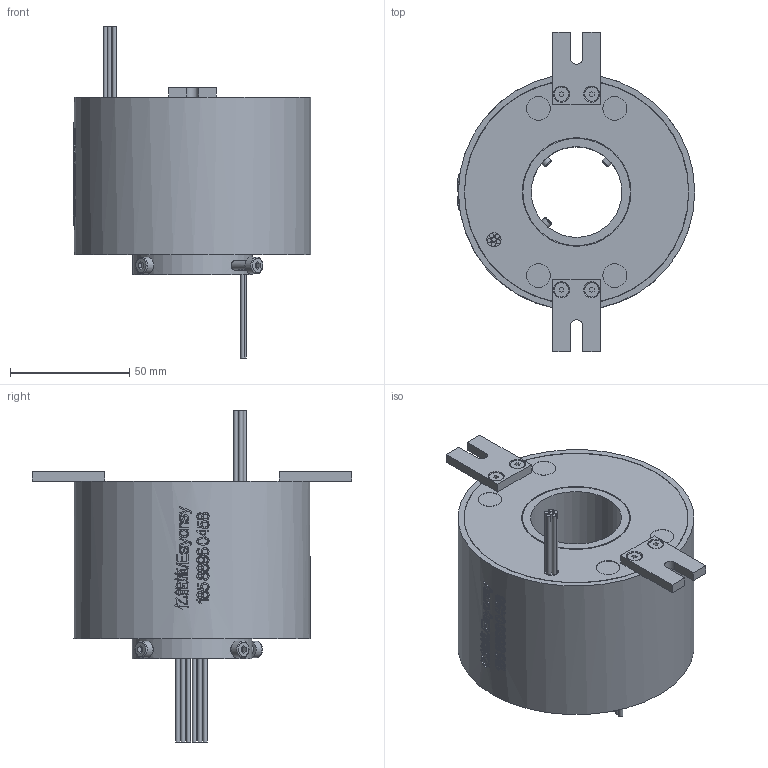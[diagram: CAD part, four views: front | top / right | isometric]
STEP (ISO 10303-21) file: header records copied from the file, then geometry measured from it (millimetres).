
FILE_DESCRIPTION(/* description */ (''),/* implementation_level */ '2;1');
FILE_NAME(/* name */ 'YDF3899-0610-3D模型.stp',/* time_stamp */ '2025-09-11T17:32:25+08:00',/* author */ (''),/* organization */ (''),/* preprocessor_version */ 'ST-DEVELOPER v16.7',/* originating_system */ 'SIEMENS PLM Software NX 12.0',/* authorisation */ '');
FILE_SCHEMA (('AUTOMOTIVE_DESIGN { 1 0 10303 214 3 1 1 1 }'));
Length unit declared in the file: millimetre
Products named in the file (1): Admi3178C071eg8u
Bounding box: 99.5 x 134 x 139.1 mm (x, y, z)
Volume: 446288.2 mm3; surface area: 49980.1 mm2
Topology: 1 solids, 1 shells, 916 faces, 2446 edges, 1628 vertices
Faces by surface type: extrusion 452, plane 352, cylinder 67, bspline 33, cone 8, torus 4
Full cylindrical faces by diameter (mm): 1.8 x12, 3.4 x1, 4 x7, 6 x5, 7 x4, 10 x4, 38 x1, 45 x1, 45.5 x1, 50 x1, 50.5 x1, 93.9 x2, 94 x2, 99 x1
Entity records: 36276 total; most frequent: CARTESIAN_POINT 17004, ORIENTED_EDGE 4744, EDGE_CURVE 2372, DIRECTION 2204, B_SPLINE_CURVE_WITH_KNOTS 2203, VERTEX_POINT 1609, EDGE_LOOP 1073, ADVANCED_FACE 916
